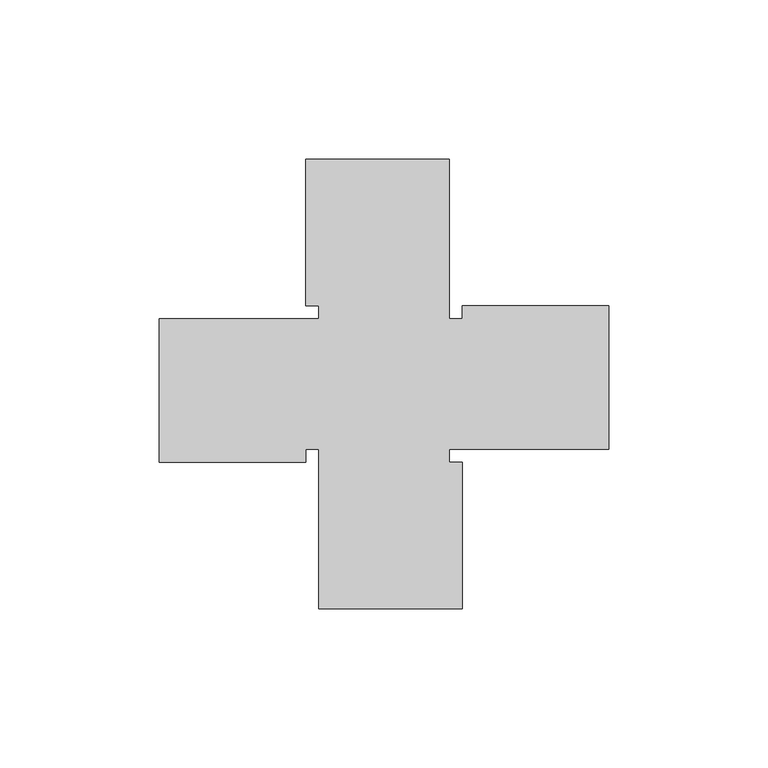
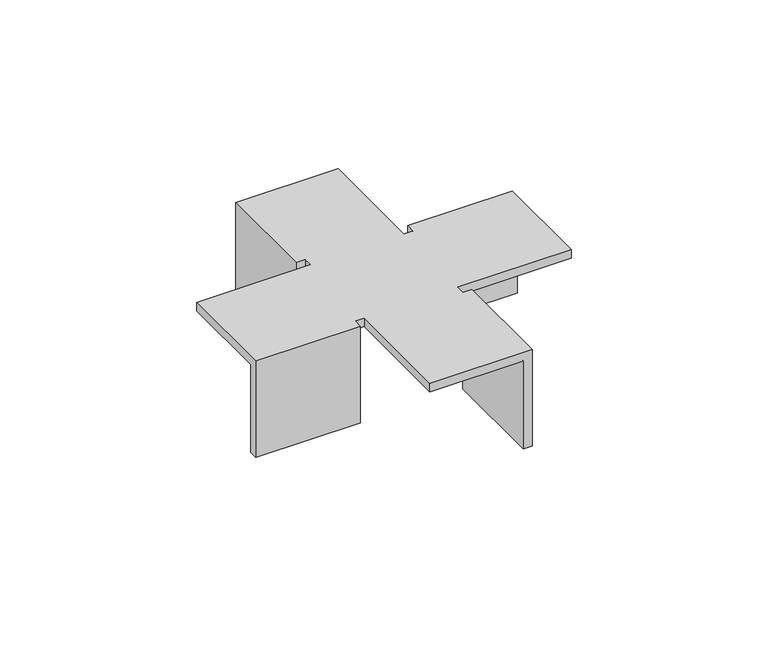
"""IFC4 building model written with IfcOpenShell, lengths in millimetres: proxy geometry, 4182CR_Tightened cross-Basorfix : Basorfix 4182CR GC70."""

from ifc_helpers import new_model, si_unit, origin, place, context, project, spatial, faceted_brep, source, transform, mapped, element, save


def generic_models_a507d424(model_context):
    return source(origin(), model_context, "Body", "Brep", [
        faceted_brep([(-24.5, -20.4842733, -41.0), (-24.5, -24.4842733, -41.0), (-70.495551, -24.4842733, -41.0), (-70.495551, -20.4842733, -41.0), (24.5, -24.4842733, -41.0), (24.5, -70.4958084, -41.0), (20.5, -70.4958084, -41.0), (20.5, -24.4842733, -41.0), (70.495551, 20.4842733, -41.0), (24.5, 20.4842733, -41.0), (24.5, 24.4842733, -41.0), (70.495551, 24.4842733, -41.0), (-20.5, 70.4958084, -41.0), (-20.5, 24.4842733, -41.0), (-24.5, 24.4842733, -41.0), (-24.5, 70.4958084, -41.0), (-70.495551, -20.4842733, 0.0), (-24.5, -20.4842733, 0.0), (-70.495551, -24.4842733, 4.0), (-70.495551, 20.4842733, 4.0), (-70.495551, 20.4842733, 0.0), (-24.5, -24.4842733, 4.0), (-24.5, -20.4842733, 4.0), (20.5, -24.4842733, 0.0), (20.5, -24.4842733, 4.0), (24.5, -24.4842733, 4.0), (20.5, -70.4958084, 0.0), (24.5, -70.4958084, 4.0), (-20.5, -70.4958084, 4.0), (-20.5, -70.4958084, 0.0), (70.495551, 24.4842733, 4.0), (70.495551, -20.4842733, 4.0), (70.495551, -20.4842733, 0.0), (70.495551, 20.4842733, 0.0), (24.5, 24.4842733, 4.0), (24.5, 20.4842733, 0.0), (24.5, 20.4842733, 4.0), (-24.5, 70.4958084, 4.0), (20.5, 70.4958084, 4.0), (20.5, 70.4958084, 0.0), (-20.5, 70.4958084, 0.0), (-24.5, 24.4842733, 4.0), (-20.5, 24.4842733, 0.0), (-20.5, 24.4842733, 4.0), (20.5, 20.4842733, 4.0), (-20.5, 20.4842733, 4.0), (-20.5, -20.4842733, 4.0), (20.5, -20.4842733, 4.0), (20.5, -20.4842733, 0.0), (-20.5, -20.4842733, 0.0), (-20.5, 20.4842733, 0.0), (20.5, 20.4842733, 0.0)], [[[0, 1, 2, 3]], [[4, 5, 6, 7]], [[8, 9, 10, 11]], [[12, 13, 14, 15]], [[0, 3, 16, 17]], [[3, 2, 18, 19, 20, 16]], [[18, 2, 1, 21]], [[21, 1, 0, 17, 22]], [[4, 7, 23, 24, 25]], [[7, 6, 26, 23]], [[6, 5, 27, 28, 29, 26]], [[27, 5, 4, 25]], [[8, 11, 30, 31, 32, 33]], [[30, 11, 10, 34]], [[34, 10, 9, 35, 36]], [[9, 8, 33, 35]], [[12, 15, 37, 38, 39, 40]], [[37, 15, 14, 41]], [[41, 14, 13, 42, 43]], [[13, 12, 40, 42]], [[31, 30, 34, 36, 44, 38, 37, 41, 43, 45, 19, 18, 21, 22, 46, 28, 27, 25, 24, 47]], [[32, 48, 23, 26, 29, 49, 17, 16, 20, 50, 42, 40, 39, 51, 35, 33]], [[44, 36, 35, 51]], [[38, 44, 51, 39]], [[45, 43, 42, 50]], [[19, 45, 50, 20]], [[46, 22, 17, 49]], [[28, 46, 49, 29]], [[47, 24, 23, 48]], [[31, 47, 48, 32]]]),
    ])


if __name__ == "__main__":
    model = new_model("IFC4")
    model_context = context("Model", 3, world=origin())
    ifc_project = project(units=[si_unit("LENGTHUNIT", "METRE", prefix="MILLI")], contexts=[model_context])
    site = spatial("IfcSite", under=ifc_project)
    building = spatial("IfcBuilding", under=site)
    placement = place(None, origin())
    generic_models_shape = generic_models_a507d424(model_context)
    element("IfcBuildingElementProxy", 1, Name="4182CR_Tightened cross-Basorfix : Basorfix 4182CR GC70", ObjectType="4182CR_Tightened cross-Basorfix : Basorfix 4182CR GC70", at=placement, inside=building, context=model_context, shape_type="MappedRepresentation", body=[
        mapped(generic_models_shape, transform((0.0, 0.0, 0.0), x_axis=(1.0, 0.0, 0.0), y_axis=(0.0, 1.0, 0.0), z_axis=(0.0, 0.0, 1.0))),
    ])
    save(model, "model.ifc")
